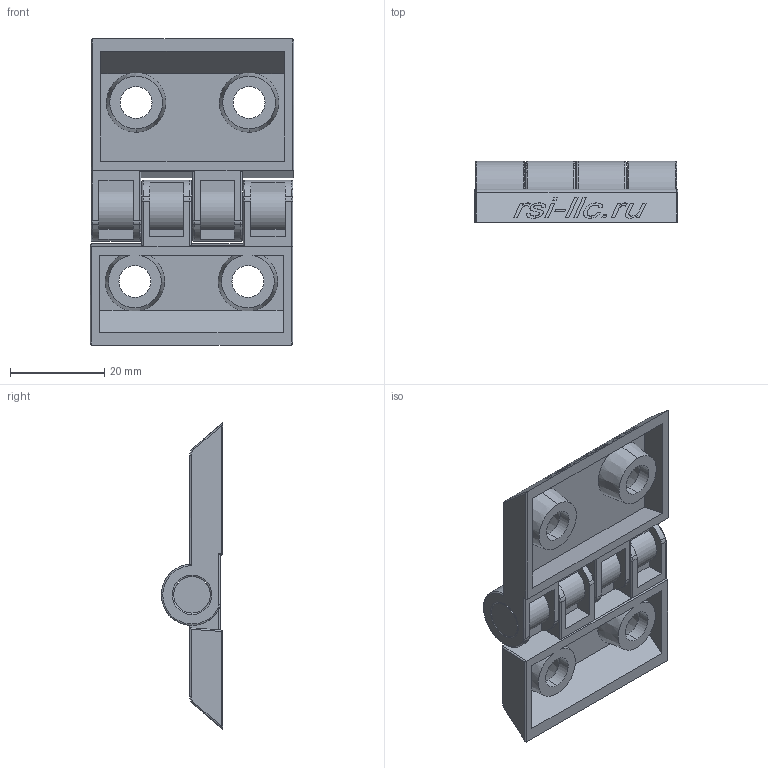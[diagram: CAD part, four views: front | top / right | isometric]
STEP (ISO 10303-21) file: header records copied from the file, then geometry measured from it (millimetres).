
FILE_DESCRIPTION (( 'STEP AP214' ), '1' );
FILE_NAME ('3154.STEP', '2022-07-06T05:54:29', ( 'Home' ), ( '' ), 'SwSTEP 2.0', 'SolidWorks 2020', '' );
FILE_SCHEMA (( 'AUTOMOTIVE_DESIGN' ));
Length unit declared in the file: millimetre
Products named in the file (4): 3154-2; 3154-1_30; 3154; 3154-1_45
Assembly tree (3 placements, depth 2):
  3154
    3154-1_30
    3154-1_45
    3154-2
Bounding box: 43.25 x 13 x 65 mm (x, y, z)
Volume: 11655.2 mm3; surface area: 12453.4 mm2
Topology: 25 solids, 25 shells, 378 faces, 926 edges, 600 vertices
Faces by surface type: plane 210, bspline 64, cylinder 62, torus 28, cone 14
Entity records: 17246 total; most frequent: CARTESIAN_POINT 6022, ORIENTED_EDGE 1852, DIRECTION 1572, EDGE_CURVE 926, VERTEX_POINT 600, LINE 592, VECTOR 592, AXIS2_PLACEMENT_3D 490
